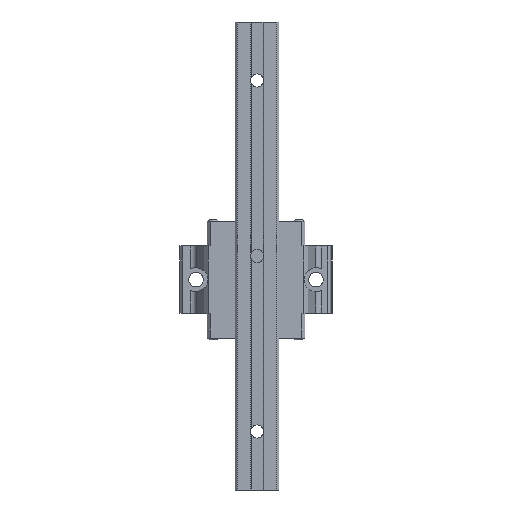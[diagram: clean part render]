
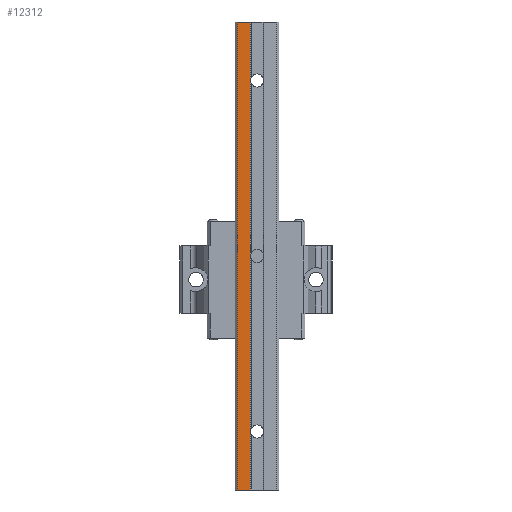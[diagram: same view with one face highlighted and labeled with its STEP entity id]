
A CAD part, front view. The second image highlights one B-rep face of the part: STEP entity #12312.
In plain terms, the highlighted planar face has unit normal (0, -1, 0).
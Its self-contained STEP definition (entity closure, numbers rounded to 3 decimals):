
#695 = CARTESIAN_POINT ( 'NONE',  ( -2.35, -24., 50. ) ) ;
#1824 = AXIS2_PLACEMENT_3D ( 'NONE', #15494, #5076, #11143 ) ;
#2376 = VECTOR ( 'NONE', #14467, 1000. ) ;
#2492 = VECTOR ( 'NONE', #17189, 1000. ) ;
#2761 = LINE ( 'NONE', #18322, #2492 ) ;
#2835 = VERTEX_POINT ( 'NONE', #12496 ) ;
#2976 = LINE ( 'NONE', #8702, #2376 ) ;
#4503 = ORIENTED_EDGE ( 'NONE', *, *, #9733, .F. ) ;
#4996 = DIRECTION ( 'NONE',  ( 0., 0., 1. ) ) ;
#5076 = DIRECTION ( 'NONE',  ( 0., -1., 0. ) ) ;
#5735 = EDGE_CURVE ( 'NONE', #2835, #14842, #10058, .T. ) ;
#6270 = VECTOR ( 'NONE', #8011, 1000. ) ;
#6439 = ORIENTED_EDGE ( 'NONE', *, *, #11921, .T. ) ;
#6934 = FACE_OUTER_BOUND ( 'NONE', #13226, .T. ) ;
#7433 = CARTESIAN_POINT ( 'NONE',  ( -2.35, -24., -60. ) ) ;
#8011 = DIRECTION ( 'NONE',  ( 0., 0., -1. ) ) ;
#8702 = CARTESIAN_POINT ( 'NONE',  ( 0., -24., 100. ) ) ;
#9143 = VERTEX_POINT ( 'NONE', #13568 ) ;
#9733 = EDGE_CURVE ( 'NONE', #14958, #14842, #2761, .T. ) ;
#9970 = CARTESIAN_POINT ( 'NONE',  ( -6.8, -24., -60. ) ) ;
#10042 = ORIENTED_EDGE ( 'NONE', *, *, #15302, .T. ) ;
#10058 = LINE ( 'NONE', #10711, #6270 ) ;
#10711 = CARTESIAN_POINT ( 'NONE',  ( -6.8, -24., 50. ) ) ;
#11143 = DIRECTION ( 'NONE',  ( 0., 0., -1. ) ) ;
#11680 = VECTOR ( 'NONE', #4996, 1000. ) ;
#11921 = EDGE_CURVE ( 'NONE', #14958, #9143, #13544, .T. ) ;
#12290 = PLANE ( 'NONE',  #1824 ) ;
#12312 = ADVANCED_FACE ( 'NONE', ( #6934 ), #12290, .T. ) ;
#12496 = CARTESIAN_POINT ( 'NONE',  ( -6.8, -24., 100. ) ) ;
#13226 = EDGE_LOOP ( 'NONE', ( #17442, #4503, #6439, #10042 ) ) ;
#13544 = LINE ( 'NONE', #695, #11680 ) ;
#13568 = CARTESIAN_POINT ( 'NONE',  ( -2.35, -24., 100. ) ) ;
#14467 = DIRECTION ( 'NONE',  ( -1., 0., 0. ) ) ;
#14842 = VERTEX_POINT ( 'NONE', #9970 ) ;
#14958 = VERTEX_POINT ( 'NONE', #7433 ) ;
#15302 = EDGE_CURVE ( 'NONE', #9143, #2835, #2976, .T. ) ;
#15494 = CARTESIAN_POINT ( 'NONE',  ( -2.35, -24., 50. ) ) ;
#17189 = DIRECTION ( 'NONE',  ( -1., 0., 0. ) ) ;
#17442 = ORIENTED_EDGE ( 'NONE', *, *, #5735, .T. ) ;
#18322 = CARTESIAN_POINT ( 'NONE',  ( 0., -24., -60. ) ) ;
